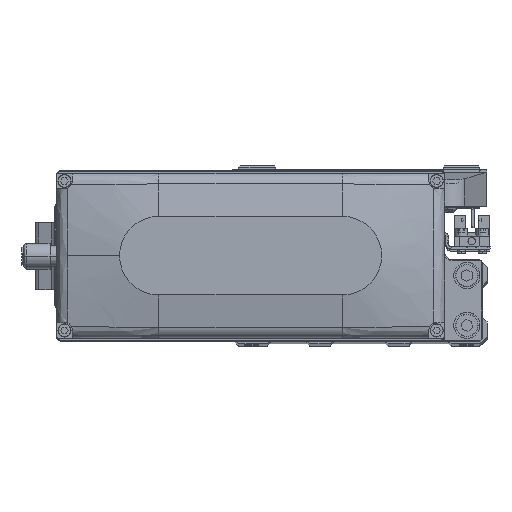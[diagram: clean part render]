
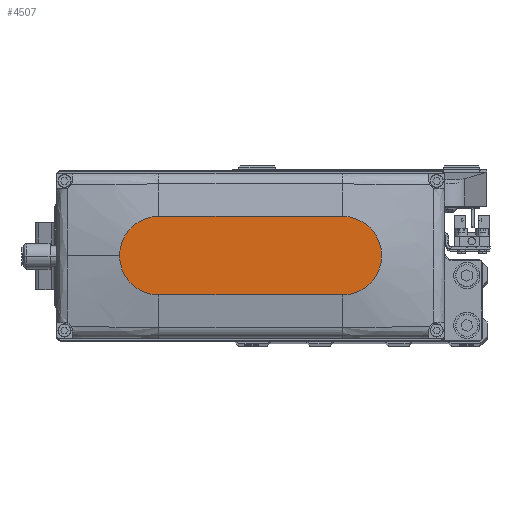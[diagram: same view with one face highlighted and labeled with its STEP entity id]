
A CAD part, top view. The second image highlights one B-rep face of the part: STEP entity #4507.
In plain terms, the highlighted planar face has unit normal (0, 0, 1).
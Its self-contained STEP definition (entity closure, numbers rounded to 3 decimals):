
#331 = EDGE_LOOP ( 'NONE', ( #7194, #12355, #43898, #42794, #18786 ) ) ;
#1041 = CARTESIAN_POINT ( 'NONE',  ( 35., 0., 35. ) ) ;
#2144 = CARTESIAN_POINT ( 'NONE',  ( 35., 0., 35. ) ) ;
#4507 = ADVANCED_FACE ( 'NONE', ( #44570 ), #13507, .T. ) ;
#5137 = CARTESIAN_POINT ( 'NONE',  ( -35., 15., 35. ) ) ;
#6762 = VECTOR ( 'NONE', #7581, 1000. ) ;
#6869 = VERTEX_POINT ( 'NONE', #5137 ) ;
#7161 = EDGE_CURVE ( 'NONE', #6869, #29338, #18336, .T. ) ;
#7194 = ORIENTED_EDGE ( 'NONE', *, *, #41262, .T. ) ;
#7581 = DIRECTION ( 'NONE',  ( 1., 0., 0. ) ) ;
#7997 = DIRECTION ( 'NONE',  ( 1., 0., 0. ) ) ;
#10075 = DIRECTION ( 'NONE',  ( 1., 0., 0. ) ) ;
#10812 = CARTESIAN_POINT ( 'NONE',  ( 35., -15., 35. ) ) ;
#12249 = DIRECTION ( 'NONE',  ( -1., 0., 0. ) ) ;
#12355 = ORIENTED_EDGE ( 'NONE', *, *, #7161, .T. ) ;
#13507 = PLANE ( 'NONE',  #42854 ) ;
#14182 = EDGE_CURVE ( 'NONE', #14475, #27069, #41128, .T. ) ;
#14475 = VERTEX_POINT ( 'NONE', #34688 ) ;
#14861 = CARTESIAN_POINT ( 'NONE',  ( -35., 0., 35. ) ) ;
#14956 = DIRECTION ( 'NONE',  ( 0., 0., 1. ) ) ;
#16026 = DIRECTION ( 'NONE',  ( 0., 0., 1. ) ) ;
#18336 = CIRCLE ( 'NONE', #24173, 15. ) ;
#18541 = EDGE_CURVE ( 'NONE', #32312, #14475, #43041, .T. ) ;
#18786 = ORIENTED_EDGE ( 'NONE', *, *, #14182, .T. ) ;
#21610 = AXIS2_PLACEMENT_3D ( 'NONE', #1041, #14956, #28846 ) ;
#23542 = AXIS2_PLACEMENT_3D ( 'NONE', #2144, #16026, #29921 ) ;
#24087 = CARTESIAN_POINT ( 'NONE',  ( 35., 15., 35. ) ) ;
#24173 = AXIS2_PLACEMENT_3D ( 'NONE', #14861, #39123, #7997 ) ;
#24890 = LINE ( 'NONE', #38690, #6762 ) ;
#26231 = CARTESIAN_POINT ( 'NONE',  ( -35., -15., 35. ) ) ;
#27069 = VERTEX_POINT ( 'NONE', #24087 ) ;
#27411 = CARTESIAN_POINT ( 'NONE',  ( 0., 0., 35. ) ) ;
#28846 = DIRECTION ( 'NONE',  ( 1., 0., 0. ) ) ;
#29338 = VERTEX_POINT ( 'NONE', #26231 ) ;
#29584 = LINE ( 'NONE', #43350, #36007 ) ;
#29921 = DIRECTION ( 'NONE',  ( 1., 0., 0. ) ) ;
#30413 = EDGE_CURVE ( 'NONE', #29338, #32312, #24890, .T. ) ;
#32312 = VERTEX_POINT ( 'NONE', #10812 ) ;
#34688 = CARTESIAN_POINT ( 'NONE',  ( 50., 0., 35. ) ) ;
#36007 = VECTOR ( 'NONE', #12249, 1000. ) ;
#38690 = CARTESIAN_POINT ( 'NONE',  ( -35., -15., 35. ) ) ;
#39123 = DIRECTION ( 'NONE',  ( 0., 0., 1. ) ) ;
#41128 = CIRCLE ( 'NONE', #21610, 15. ) ;
#41183 = DIRECTION ( 'NONE',  ( 0., 0., 1. ) ) ;
#41262 = EDGE_CURVE ( 'NONE', #27069, #6869, #29584, .T. ) ;
#42794 = ORIENTED_EDGE ( 'NONE', *, *, #18541, .T. ) ;
#42854 = AXIS2_PLACEMENT_3D ( 'NONE', #27411, #41183, #10075 ) ;
#43041 = CIRCLE ( 'NONE', #23542, 15. ) ;
#43350 = CARTESIAN_POINT ( 'NONE',  ( -35., 15., 35. ) ) ;
#43898 = ORIENTED_EDGE ( 'NONE', *, *, #30413, .T. ) ;
#44570 = FACE_OUTER_BOUND ( 'NONE', #331, .T. ) ;
